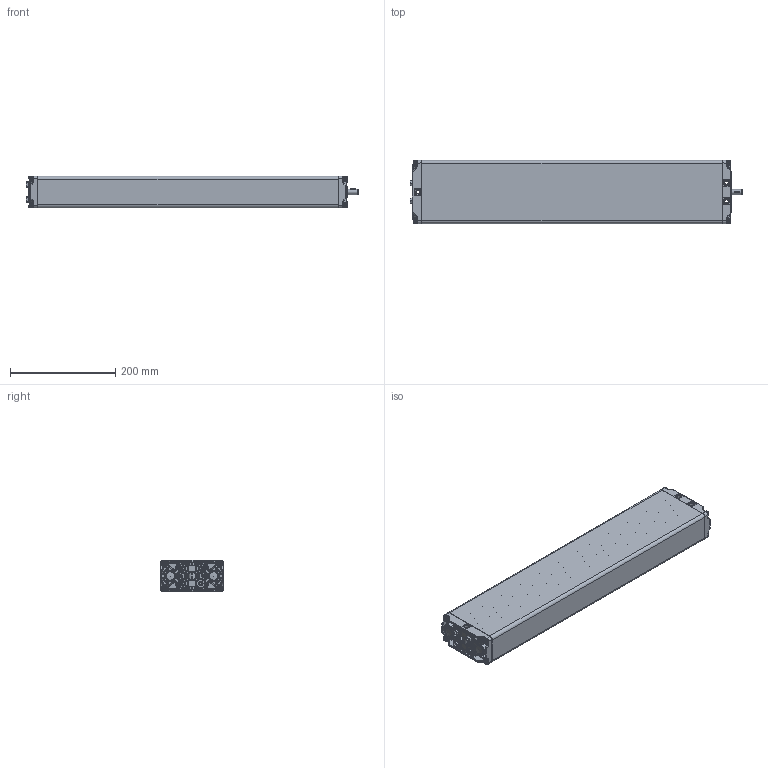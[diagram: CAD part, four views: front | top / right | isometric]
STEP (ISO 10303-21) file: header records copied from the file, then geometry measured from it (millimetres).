
FILE_DESCRIPTION(/* description */ ('Unknown'),/* implementation_level */ '2;1');
FILE_NAME(/* name */ '102.20024 Pumpe PB 3840 W',/* time_stamp */ '2016-10-21T13:37:04+02:00',/* author */ ('Unknown'),/* organization */ ('Unknown'),/* preprocessor_version */ 'ST-DEVELOPER v16.7',/* originating_system */ 'DEX',/* authorisation */ $);
FILE_SCHEMA (('AUTOMOTIVE_DESIGN {1 0 10303 214 3 1 1}'));
Products named in the file (15): 102.20024; 115.00034; 125.00045; 115.00008; 142.00021; 125.00021; 142.00013; 125.00144; 115.00140; 126.00006; 122.00040; 119.00044; 126.00005; 142.00057; 142.00110
Assembly tree (25 placements, depth 3):
  102.20024
    115.00034  x3
      125.00045
      115.00008
      142.00021
      125.00021
    142.00013  x8
    125.00045
    125.00144
    115.00140
      126.00006
      122.00040
    119.00044
    126.00005
    142.00057
    142.00110  x2
Bounding box: 629.47 x 120 x 60.3 mm (x, y, z)
Volume: 766021.7 mm3; surface area: 524909.4 mm2
Topology: 26 solids, 26 shells, 2486 faces, 5889 edges, 3383 vertices
Faces by surface type: bspline 704, plane 656, cylinder 557, cone 339, torus 171, sphere 59
Full cylindrical faces by diameter (mm): 3.5 x4, 4.1 x3, 4.2 x4, 5 x8, 6.917 x8, 8 x7, 9.8 x8, 10 x3, 10.4 x1, 14 x1, 14.4 x4, 15.8 x2, 17.3 x4, 17.9 x8, 18 x3, 19 x1, 21.2 x2
Entity records: 97701 total; most frequent: CARTESIAN_POINT 54084, ORIENTED_EDGE 8246, DIRECTION 6581, EDGE_CURVE 4123, AXIS2_PLACEMENT_3D 2648, VERTEX_POINT 2525, FACE_BOUND 1992, EDGE_LOOP 1991
